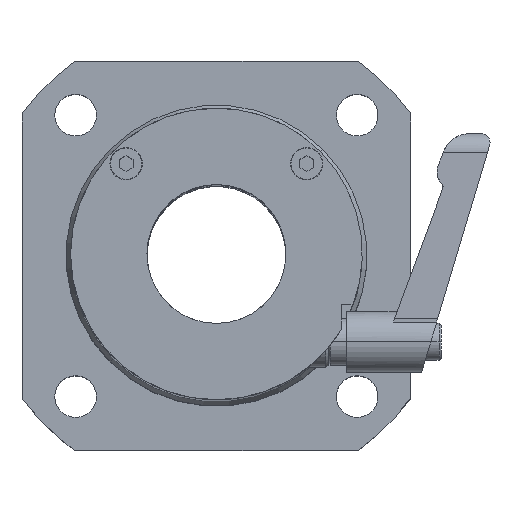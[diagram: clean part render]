
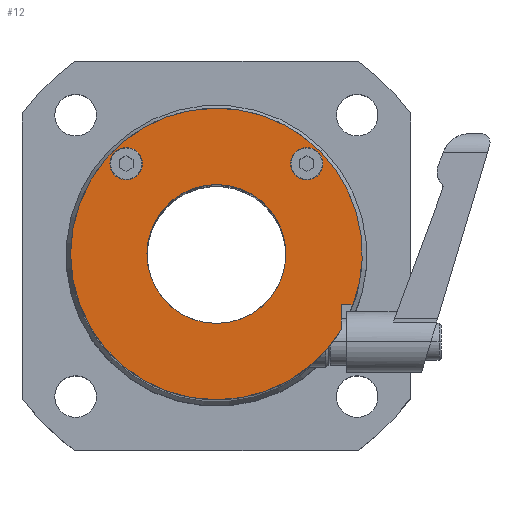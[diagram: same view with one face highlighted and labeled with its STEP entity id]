
A CAD part, top view. The second image highlights one B-rep face of the part: STEP entity #12.
In plain terms, the highlighted planar face has unit normal (0, 0, 1).
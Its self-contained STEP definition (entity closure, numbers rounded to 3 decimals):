
#12 = ADVANCED_FACE ( 'NONE', ( #257, #8289, #8396, #7404 ), #2705, .T. ) ;
#53 = VERTEX_POINT ( 'NONE', #3394 ) ;
#172 = VERTEX_POINT ( 'NONE', #7296 ) ;
#212 = CARTESIAN_POINT ( 'NONE',  ( -25.096, 20.022, 70.5 ) ) ;
#257 = FACE_BOUND ( 'NONE', #7069, .T. ) ;
#445 = EDGE_CURVE ( 'NONE', #1501, #4701, #4041, .T. ) ;
#660 = EDGE_CURVE ( 'NONE', #3709, #172, #5741, .T. ) ;
#740 = ORIENTED_EDGE ( 'NONE', *, *, #445, .T. ) ;
#977 = VECTOR ( 'NONE', #5052, 1000. ) ;
#1260 = ORIENTED_EDGE ( 'NONE', *, *, #9497, .T. ) ;
#1472 = EDGE_CURVE ( 'NONE', #7659, #53, #5324, .T. ) ;
#1501 = VERTEX_POINT ( 'NONE', #4933 ) ;
#1825 = EDGE_LOOP ( 'NONE', ( #5940, #2707, #1852, #740, #1260 ) ) ;
#1852 = ORIENTED_EDGE ( 'NONE', *, *, #3402, .T. ) ;
#1865 = DIRECTION ( 'NONE',  ( 1., 0., 0. ) ) ;
#1876 = VERTEX_POINT ( 'NONE', #6112 ) ;
#1931 = AXIS2_PLACEMENT_3D ( 'NONE', #4647, #6341, #7980 ) ;
#1992 = CIRCLE ( 'NONE', #10021, 3.5 ) ;
#2008 = CARTESIAN_POINT ( 'NONE',  ( -5.596, -14.478, 70.5 ) ) ;
#2024 = EDGE_LOOP ( 'NONE', ( #4760, #8638 ) ) ;
#2454 = CIRCLE ( 'NONE', #1931, 15. ) ;
#2538 = LINE ( 'NONE', #3439, #977 ) ;
#2622 = DIRECTION ( 'NONE',  ( 1., 0., 0. ) ) ;
#2658 = CARTESIAN_POINT ( 'NONE',  ( -5.596, 0.522, 70.5 ) ) ;
#2705 = PLANE ( 'NONE',  #10477 ) ;
#2707 = ORIENTED_EDGE ( 'NONE', *, *, #7014, .F. ) ;
#2726 = ORIENTED_EDGE ( 'NONE', *, *, #660, .F. ) ;
#2779 = DIRECTION ( 'NONE',  ( 0., 0., 1. ) ) ;
#2933 = ORIENTED_EDGE ( 'NONE', *, *, #7265, .F. ) ;
#2977 = AXIS2_PLACEMENT_3D ( 'NONE', #7327, #4086, #5744 ) ;
#3129 = AXIS2_PLACEMENT_3D ( 'NONE', #7615, #7546, #7493 ) ;
#3260 = AXIS2_PLACEMENT_3D ( 'NONE', #9030, #9981, #5151 ) ;
#3394 = CARTESIAN_POINT ( 'NONE',  ( -5.596, 15.522, 70.5 ) ) ;
#3402 = EDGE_CURVE ( 'NONE', #1876, #1501, #10368, .T. ) ;
#3439 = CARTESIAN_POINT ( 'NONE',  ( 21.404, -10.478, 70.5 ) ) ;
#3451 = VERTEX_POINT ( 'NONE', #5899 ) ;
#3509 = DIRECTION ( 'NONE',  ( 0., -1., 0. ) ) ;
#3534 = CARTESIAN_POINT ( 'NONE',  ( -5.596, -30.978, 70.5 ) ) ;
#3703 = LINE ( 'NONE', #4448, #4316 ) ;
#3709 = VERTEX_POINT ( 'NONE', #9652 ) ;
#3770 = EDGE_CURVE ( 'NONE', #172, #3709, #3788, .T. ) ;
#3788 = CIRCLE ( 'NONE', #8755, 3.5 ) ;
#4041 = CIRCLE ( 'NONE', #9841, 31.5 ) ;
#4086 = DIRECTION ( 'NONE',  ( 0., 0., 1. ) ) ;
#4117 = DIRECTION ( 'NONE',  ( 1., 0., 0. ) ) ;
#4263 = DIRECTION ( 'NONE',  ( 0., -1., 0. ) ) ;
#4316 = VECTOR ( 'NONE', #4510, 1000. ) ;
#4448 = CARTESIAN_POINT ( 'NONE',  ( 21.404, -10.478, 70.5 ) ) ;
#4510 = DIRECTION ( 'NONE',  ( 0., -1., 0. ) ) ;
#4567 = CARTESIAN_POINT ( 'NONE',  ( 10.404, 20.022, 70.5 ) ) ;
#4647 = CARTESIAN_POINT ( 'NONE',  ( -5.596, 0.522, 70.5 ) ) ;
#4701 = VERTEX_POINT ( 'NONE', #3534 ) ;
#4760 = ORIENTED_EDGE ( 'NONE', *, *, #8196, .F. ) ;
#4901 = ORIENTED_EDGE ( 'NONE', *, *, #3770, .F. ) ;
#4933 = CARTESIAN_POINT ( 'NONE',  ( -5.596, 32.022, 70.5 ) ) ;
#4996 = DIRECTION ( 'NONE',  ( 0., 0., 1. ) ) ;
#5052 = DIRECTION ( 'NONE',  ( -1., 0., 0. ) ) ;
#5151 = DIRECTION ( 'NONE',  ( 0., -1., 0. ) ) ;
#5306 = DIRECTION ( 'NONE',  ( 0., 0., 1. ) ) ;
#5324 = CIRCLE ( 'NONE', #3260, 15. ) ;
#5369 = CARTESIAN_POINT ( 'NONE',  ( -5.596, 0.522, 70.5 ) ) ;
#5520 = CIRCLE ( 'NONE', #3129, 31.5 ) ;
#5741 = CIRCLE ( 'NONE', #9525, 3.5 ) ;
#5744 = DIRECTION ( 'NONE',  ( 1., 0., 0. ) ) ;
#5899 = CARTESIAN_POINT ( 'NONE',  ( 21.404, -15.703, 70.5 ) ) ;
#5940 = ORIENTED_EDGE ( 'NONE', *, *, #7879, .F. ) ;
#6112 = CARTESIAN_POINT ( 'NONE',  ( 23.921, -10.478, 70.5 ) ) ;
#6341 = DIRECTION ( 'NONE',  ( 0., 0., 1. ) ) ;
#6720 = VERTEX_POINT ( 'NONE', #7592 ) ;
#7014 = EDGE_CURVE ( 'NONE', #1876, #6720, #2538, .T. ) ;
#7069 = EDGE_LOOP ( 'NONE', ( #2933, #7122 ) ) ;
#7122 = ORIENTED_EDGE ( 'NONE', *, *, #9181, .F. ) ;
#7125 = AXIS2_PLACEMENT_3D ( 'NONE', #2658, #10003, #4263 ) ;
#7265 = EDGE_CURVE ( 'NONE', #9619, #10150, #1992, .T. ) ;
#7296 = CARTESIAN_POINT ( 'NONE',  ( -28.596, 20.022, 70.5 ) ) ;
#7327 = CARTESIAN_POINT ( 'NONE',  ( 13.904, 20.022, 70.5 ) ) ;
#7404 = FACE_BOUND ( 'NONE', #2024, .T. ) ;
#7493 = DIRECTION ( 'NONE',  ( 0., -1., 0. ) ) ;
#7546 = DIRECTION ( 'NONE',  ( 0., 0., 1. ) ) ;
#7583 = CARTESIAN_POINT ( 'NONE',  ( -5.596, 0.522, 70.5 ) ) ;
#7586 = CIRCLE ( 'NONE', #2977, 3.5 ) ;
#7592 = CARTESIAN_POINT ( 'NONE',  ( 21.404, -10.478, 70.5 ) ) ;
#7615 = CARTESIAN_POINT ( 'NONE',  ( -5.596, 0.522, 70.5 ) ) ;
#7659 = VERTEX_POINT ( 'NONE', #2008 ) ;
#7879 = EDGE_CURVE ( 'NONE', #6720, #3451, #3703, .T. ) ;
#7980 = DIRECTION ( 'NONE',  ( 0., -1., 0. ) ) ;
#8196 = EDGE_CURVE ( 'NONE', #53, #7659, #2454, .T. ) ;
#8289 = FACE_BOUND ( 'NONE', #9570, .T. ) ;
#8377 = CARTESIAN_POINT ( 'NONE',  ( 17.404, 20.022, 70.5 ) ) ;
#8396 = FACE_OUTER_BOUND ( 'NONE', #1825, .T. ) ;
#8414 = CARTESIAN_POINT ( 'NONE',  ( -25.096, 20.022, 70.5 ) ) ;
#8638 = ORIENTED_EDGE ( 'NONE', *, *, #1472, .F. ) ;
#8755 = AXIS2_PLACEMENT_3D ( 'NONE', #8414, #9955, #4117 ) ;
#9030 = CARTESIAN_POINT ( 'NONE',  ( -5.596, 0.522, 70.5 ) ) ;
#9181 = EDGE_CURVE ( 'NONE', #10150, #9619, #7586, .T. ) ;
#9211 = DIRECTION ( 'NONE',  ( 0., 0., 1. ) ) ;
#9497 = EDGE_CURVE ( 'NONE', #4701, #3451, #5520, .T. ) ;
#9500 = DIRECTION ( 'NONE',  ( 0., -1., 0. ) ) ;
#9525 = AXIS2_PLACEMENT_3D ( 'NONE', #212, #9211, #1865 ) ;
#9570 = EDGE_LOOP ( 'NONE', ( #4901, #2726 ) ) ;
#9619 = VERTEX_POINT ( 'NONE', #4567 ) ;
#9652 = CARTESIAN_POINT ( 'NONE',  ( -21.596, 20.022, 70.5 ) ) ;
#9841 = AXIS2_PLACEMENT_3D ( 'NONE', #5369, #5306, #9500 ) ;
#9955 = DIRECTION ( 'NONE',  ( 0., 0., 1. ) ) ;
#9981 = DIRECTION ( 'NONE',  ( 0., 0., 1. ) ) ;
#10003 = DIRECTION ( 'NONE',  ( 0., 0., 1. ) ) ;
#10021 = AXIS2_PLACEMENT_3D ( 'NONE', #10121, #2779, #2622 ) ;
#10121 = CARTESIAN_POINT ( 'NONE',  ( 13.904, 20.022, 70.5 ) ) ;
#10150 = VERTEX_POINT ( 'NONE', #8377 ) ;
#10368 = CIRCLE ( 'NONE', #7125, 31.5 ) ;
#10477 = AXIS2_PLACEMENT_3D ( 'NONE', #7583, #4996, #3509 ) ;
